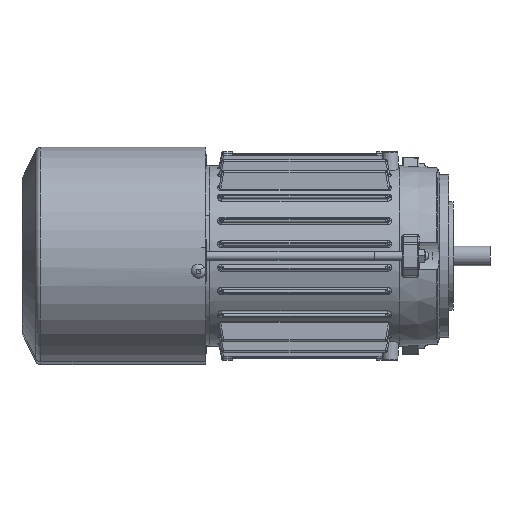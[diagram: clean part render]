
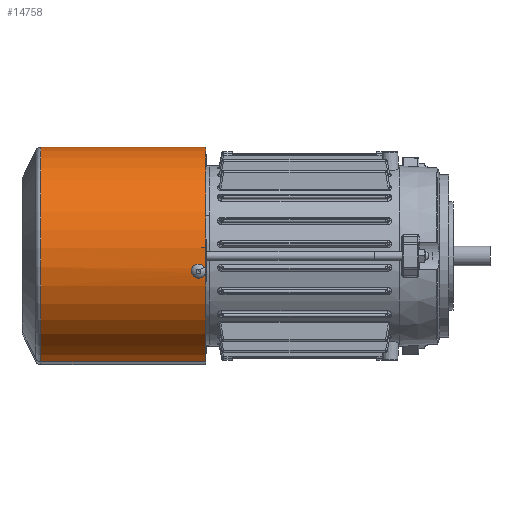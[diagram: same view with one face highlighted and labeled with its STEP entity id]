
A CAD part, front view. The second image highlights one B-rep face of the part: STEP entity #14758.
In plain terms, the highlighted cylindrical face has radius 60.5 mm (diameter 121 mm), a partial arc.
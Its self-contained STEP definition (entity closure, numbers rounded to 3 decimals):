
#1356 = CARTESIAN_POINT ( 'NONE',  ( 22.908, 99.987, 55.996 ) ) ;
#1659 = CARTESIAN_POINT ( 'NONE',  ( 20.988, 98.888, 56.743 ) ) ;
#3124 = ORIENTED_EDGE ( 'NONE', *, *, #38052, .F. ) ;
#3377 = LINE ( 'NONE', #62371, #61507 ) ;
#3435 = EDGE_CURVE ( 'NONE', #96569, #77268, #92625, .T. ) ;
#4797 = FACE_OUTER_BOUND ( 'NONE', #33150, .T. ) ;
#6061 = CARTESIAN_POINT ( 'NONE',  ( 21.728, 96.252, 56.464 ) ) ;
#6384 = CARTESIAN_POINT ( 'NONE',  ( 24.263, 96.997, 55.422 ) ) ;
#6745 = CARTESIAN_POINT ( 'NONE',  ( 20.797, 98., 56.813 ) ) ;
#8611 = CARTESIAN_POINT ( 'NONE',  ( 24.506, 98., 55.315 ) ) ;
#8938 = CARTESIAN_POINT ( 'NONE',  ( 22.543, 100., 56.143 ) ) ;
#9265 = CARTESIAN_POINT ( 'NONE',  ( 20.797, 98.264, 56.813 ) ) ;
#13406 = CARTESIAN_POINT ( 'NONE',  ( 20.797, 97.868, 56.813 ) ) ;
#13723 = CARTESIAN_POINT ( 'NONE',  ( 22.421, 96., 56.193 ) ) ;
#14043 = CARTESIAN_POINT ( 'NONE',  ( 24.412, 97.356, 55.356 ) ) ;
#14758 = ADVANCED_FACE ( 'NONE', ( #83082, #4797 ), #22614, .T. ) ;
#15997 = CARTESIAN_POINT ( 'NONE',  ( 60.5, 102., 0. ) ) ;
#16252 = CARTESIAN_POINT ( 'NONE',  ( 24.458, 98.524, 55.336 ) ) ;
#16587 = CARTESIAN_POINT ( 'NONE',  ( 22.184, 99.937, 56.286 ) ) ;
#16840 = CARTESIAN_POINT ( 'NONE',  ( 0., 10.474, 0. ) ) ;
#21118 = VERTEX_POINT ( 'NONE', #6745 ) ;
#21355 = CARTESIAN_POINT ( 'NONE',  ( 22.907, 96.013, 55.996 ) ) ;
#21683 = CARTESIAN_POINT ( 'NONE',  ( 24.494, 97.737, 55.32 ) ) ;
#22255 = ORIENTED_EDGE ( 'NONE', *, *, #76779, .F. ) ;
#22614 = CYLINDRICAL_SURFACE ( 'NONE', #65488, 60.5 ) ;
#23889 = CARTESIAN_POINT ( 'NONE',  ( 24.139, 99.229, 55.476 ) ) ;
#24209 = CARTESIAN_POINT ( 'NONE',  ( 21.84, 99.798, 56.42 ) ) ;
#24460 = DIRECTION ( 'NONE',  ( -1., 0., 0. ) ) ;
#28655 = CARTESIAN_POINT ( 'NONE',  ( 20.857, 97.482, 56.791 ) ) ;
#28981 = CARTESIAN_POINT ( 'NONE',  ( 23.259, 96.102, 55.851 ) ) ;
#29295 = CARTESIAN_POINT ( 'NONE',  ( 24.506, 98., 55.315 ) ) ;
#30484 = VERTEX_POINT ( 'NONE', #15997 ) ;
#31499 = CARTESIAN_POINT ( 'NONE',  ( 23.791, 99.59, 55.626 ) ) ;
#31834 = CARTESIAN_POINT ( 'NONE',  ( 21.53, 99.592, 56.54 ) ) ;
#33062 = ORIENTED_EDGE ( 'NONE', *, *, #36904, .T. ) ;
#33150 = EDGE_LOOP ( 'NONE', ( #45990, #33062, #22255, #74231 ) ) ;
#35090 = VERTEX_POINT ( 'NONE', #81655 ) ;
#36254 = CARTESIAN_POINT ( 'NONE',  ( 20.987, 97.113, 56.743 ) ) ;
#36485 = CARTESIAN_POINT ( 'NONE',  ( 0., 102., 0. ) ) ;
#36597 = CARTESIAN_POINT ( 'NONE',  ( 23.59, 96.265, 55.711 ) ) ;
#36904 = EDGE_CURVE ( 'NONE', #77268, #30484, #3377, .T. ) ;
#38052 = EDGE_CURVE ( 'NONE', #21118, #35090, #57155, .T. ) ;
#39144 = CARTESIAN_POINT ( 'NONE',  ( 23.485, 99.797, 55.756 ) ) ;
#39468 = CARTESIAN_POINT ( 'NONE',  ( 21.261, 99.323, 56.641 ) ) ;
#43493 = AXIS2_PLACEMENT_3D ( 'NONE', #16840, #69815, #24460 ) ;
#43895 = CARTESIAN_POINT ( 'NONE',  ( 21.181, 96.781, 56.671 ) ) ;
#44120 = DIRECTION ( 'NONE',  ( -1., 0., 0. ) ) ;
#44223 = CARTESIAN_POINT ( 'NONE',  ( 23.883, 96.492, 55.587 ) ) ;
#45136 = AXIS2_PLACEMENT_3D ( 'NONE', #36485, #89512, #44120 ) ;
#45990 = ORIENTED_EDGE ( 'NONE', *, *, #3435, .T. ) ;
#46757 = CARTESIAN_POINT ( 'NONE',  ( 23.144, 99.936, 55.898 ) ) ;
#47085 = CARTESIAN_POINT ( 'NONE',  ( 21.046, 99.004, 56.721 ) ) ;
#50229 = ORIENTED_EDGE ( 'NONE', *, *, #68546, .F. ) ;
#51376 = VECTOR ( 'NONE', #93738, 1000. ) ;
#51465 = CARTESIAN_POINT ( 'NONE',  ( 21.519, 96.401, 56.544 ) ) ;
#51497 = CARTESIAN_POINT ( 'NONE',  ( -60.5, 10.474, 0. ) ) ;
#51795 = CARTESIAN_POINT ( 'NONE',  ( 24.13, 96.78, 55.48 ) ) ;
#54335 = CARTESIAN_POINT ( 'NONE',  ( 22.788, 100., 56.045 ) ) ;
#54654 = CARTESIAN_POINT ( 'NONE',  ( 20.847, 98.527, 56.795 ) ) ;
#57155 = B_SPLINE_CURVE_WITH_KNOTS ( 'NONE', 3,
 ( #66408, #13406, #73995, #28655, #81649, #36254, #89285, #43895, #96844, #51465, #6061, #59100, #13723, #66729, #21355, #74330, #28981, #81973, #36597, #89614, #44223, #97178, #51795, #6384, #59432, #14043, #67051, #21683, #74662, #29295 ),
 .UNSPECIFIED., .F., .F.,
 ( 4, 2, 2, 2, 2, 2, 2, 2, 2, 2, 2, 2, 2, 2, 4 ),
 ( 0., 0., 0.001, 0.001, 0.002, 0.002, 0.003, 0.004, 0.004, 0.004, 0.005, 0.005, 0.005, 0.006, 0.006 ),
 .UNSPECIFIED. ) ;
#59100 = CARTESIAN_POINT ( 'NONE',  ( 22.176, 96.053, 56.29 ) ) ;
#59432 = CARTESIAN_POINT ( 'NONE',  ( 24.32, 97.114, 55.396 ) ) ;
#61507 = VECTOR ( 'NONE', #93161, 1000. ) ;
#61959 = CARTESIAN_POINT ( 'NONE',  ( 22.422, 99.987, 56.192 ) ) ;
#62272 = CARTESIAN_POINT ( 'NONE',  ( 20.797, 98., 56.813 ) ) ;
#62371 = CARTESIAN_POINT ( 'NONE',  ( 60.5, 139.861, 0. ) ) ;
#63772 = CIRCLE ( 'NONE', #45136, 60.5 ) ;
#65488 = AXIS2_PLACEMENT_3D ( 'NONE', #82231, #75908, #68296 ) ;
#66408 = CARTESIAN_POINT ( 'NONE',  ( 20.797, 98., 56.813 ) ) ;
#66729 = CARTESIAN_POINT ( 'NONE',  ( 22.784, 96., 56.046 ) ) ;
#67051 = CARTESIAN_POINT ( 'NONE',  ( 24.447, 97.481, 55.341 ) ) ;
#68296 = DIRECTION ( 'NONE',  ( -1., 0., 0. ) ) ;
#68546 = EDGE_CURVE ( 'NONE', #35090, #21118, #86208, .T. ) ;
#69233 = CARTESIAN_POINT ( 'NONE',  ( 24.275, 99.005, 55.416 ) ) ;
#69536 = CARTESIAN_POINT ( 'NONE',  ( 22.066, 99.898, 56.332 ) ) ;
#69815 = DIRECTION ( 'NONE',  ( 0., 1., 0. ) ) ;
#71492 = LINE ( 'NONE', #86164, #51376 ) ;
#72783 = CARTESIAN_POINT ( 'NONE',  ( 60.5, 10.474, 0. ) ) ;
#73995 = CARTESIAN_POINT ( 'NONE',  ( 20.809, 97.738, 56.809 ) ) ;
#74231 = ORIENTED_EDGE ( 'NONE', *, *, #96095, .F. ) ;
#74330 = CARTESIAN_POINT ( 'NONE',  ( 23.144, 96.064, 55.898 ) ) ;
#74662 = CARTESIAN_POINT ( 'NONE',  ( 24.506, 97.869, 55.315 ) ) ;
#75908 = DIRECTION ( 'NONE',  ( 0., 1., 0. ) ) ;
#76779 = EDGE_CURVE ( 'NONE', #79703, #30484, #63772, .T. ) ;
#76873 = CARTESIAN_POINT ( 'NONE',  ( 23.885, 99.505, 55.586 ) ) ;
#77207 = CARTESIAN_POINT ( 'NONE',  ( 21.733, 99.737, 56.462 ) ) ;
#77268 = VERTEX_POINT ( 'NONE', #72783 ) ;
#77973 = EDGE_LOOP ( 'NONE', ( #3124, #50229 ) ) ;
#79703 = VERTEX_POINT ( 'NONE', #80552 ) ;
#80552 = CARTESIAN_POINT ( 'NONE',  ( -60.5, 102., 0. ) ) ;
#81649 = CARTESIAN_POINT ( 'NONE',  ( 20.893, 97.355, 56.778 ) ) ;
#81655 = CARTESIAN_POINT ( 'NONE',  ( 24.506, 98., 55.315 ) ) ;
#81973 = CARTESIAN_POINT ( 'NONE',  ( 23.482, 96.202, 55.757 ) ) ;
#82231 = CARTESIAN_POINT ( 'NONE',  ( 0., 139.861, 0. ) ) ;
#83082 = FACE_BOUND ( 'NONE', #77973, .T. ) ;
#84184 = CARTESIAN_POINT ( 'NONE',  ( 24.506, 98.261, 55.315 ) ) ;
#84517 = CARTESIAN_POINT ( 'NONE',  ( 23.59, 99.735, 55.711 ) ) ;
#84825 = CARTESIAN_POINT ( 'NONE',  ( 21.434, 99.507, 56.576 ) ) ;
#86164 = CARTESIAN_POINT ( 'NONE',  ( -60.5, 139.861, 0. ) ) ;
#86208 = B_SPLINE_CURVE_WITH_KNOTS ( 'NONE', 3,
 ( #8611, #84184, #16252, #69233, #23889, #76873, #31499, #84517, #39144, #92114, #46757, #1356, #54335, #8938, #61959, #16587, #69536, #24209, #77207, #31834, #84825, #39468, #92429, #47085, #1659, #54654, #9265, #62272 ),
 .UNSPECIFIED., .F., .F.,
 ( 4, 2, 2, 2, 2, 2, 2, 2, 2, 2, 2, 2, 2, 4 ),
 ( 0.006, 0.007, 0.008, 0.008, 0.009, 0.009, 0.009, 0.01, 0.01, 0.011, 0.011, 0.011, 0.012, 0.013 ),
 .UNSPECIFIED. ) ;
#89285 = CARTESIAN_POINT ( 'NONE',  ( 21.045, 96.998, 56.722 ) ) ;
#89512 = DIRECTION ( 'NONE',  ( 0., 1., 0. ) ) ;
#89614 = CARTESIAN_POINT ( 'NONE',  ( 23.79, 96.409, 55.626 ) ) ;
#92114 = CARTESIAN_POINT ( 'NONE',  ( 23.262, 99.897, 55.849 ) ) ;
#92429 = CARTESIAN_POINT ( 'NONE',  ( 21.183, 99.222, 56.67 ) ) ;
#92625 = CIRCLE ( 'NONE', #43493, 60.5 ) ;
#93161 = DIRECTION ( 'NONE',  ( 0., 1., 0. ) ) ;
#93738 = DIRECTION ( 'NONE',  ( 0., 1., 0. ) ) ;
#96095 = EDGE_CURVE ( 'NONE', #96569, #79703, #71492, .T. ) ;
#96569 = VERTEX_POINT ( 'NONE', #51497 ) ;
#96844 = CARTESIAN_POINT ( 'NONE',  ( 21.26, 96.678, 56.642 ) ) ;
#97178 = CARTESIAN_POINT ( 'NONE',  ( 24.054, 96.679, 55.513 ) ) ;
